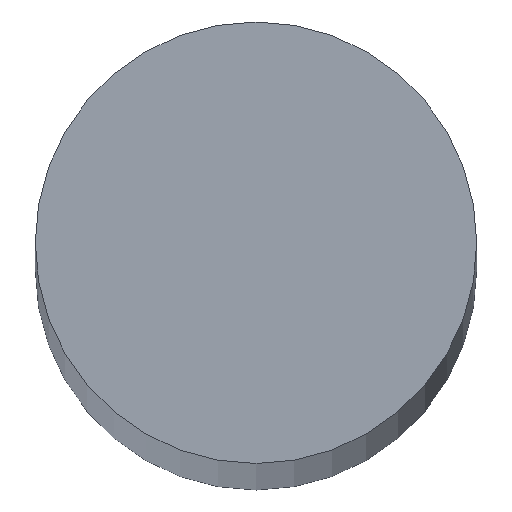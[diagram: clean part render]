
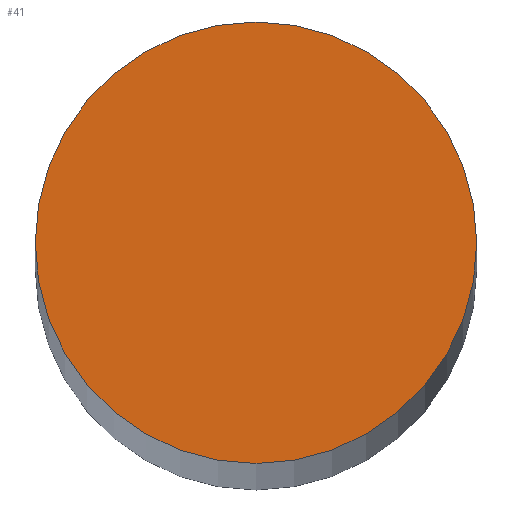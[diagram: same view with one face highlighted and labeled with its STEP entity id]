
A CAD part, top view. The second image highlights one B-rep face of the part: STEP entity #41.
In plain terms, the highlighted planar face has unit normal (0, 0, 1).
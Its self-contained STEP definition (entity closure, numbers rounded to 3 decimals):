
#16=PLANE('',#66);
#19=FACE_OUTER_BOUND('',#22,.T.);
#22=EDGE_LOOP('',(#37));
#25=CIRCLE('',#63,8.);
#27=VERTEX_POINT('',#82);
#29=EDGE_CURVE('',#27,#27,#25,.T.);
#37=ORIENTED_EDGE('',*,*,#29,.T.);
#41=ADVANCED_FACE('',(#19),#16,.T.);
#63=AXIS2_PLACEMENT_3D('',#83,#71,#72);
#66=AXIS2_PLACEMENT_3D('',#88,#78,#79);
#71=DIRECTION('center_axis',(0.,0.,1.));
#72=DIRECTION('ref_axis',(-1.,0.,0.));
#78=DIRECTION('center_axis',(0.,0.,1.));
#79=DIRECTION('ref_axis',(1.,0.,0.));
#82=CARTESIAN_POINT('',(8.,0.,550.));
#83=CARTESIAN_POINT('Origin',(0.,0.,550.));
#88=CARTESIAN_POINT('Origin',(0.,0.,
550.));
